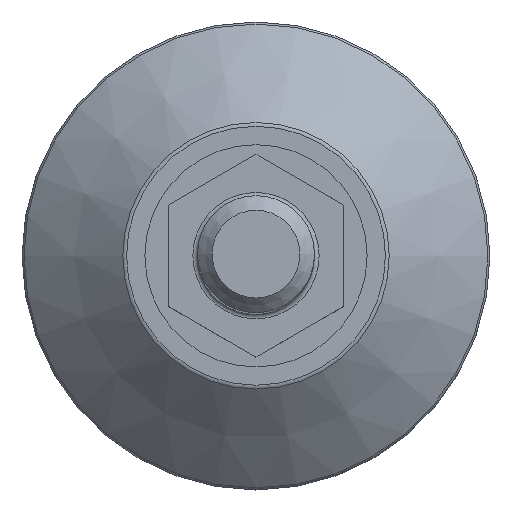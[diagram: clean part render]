
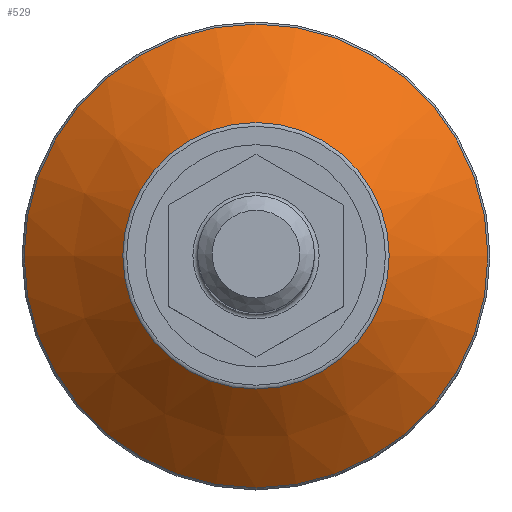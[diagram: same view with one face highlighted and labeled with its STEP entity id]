
A CAD part, top view. The second image highlights one B-rep face of the part: STEP entity #529.
In plain terms, the highlighted conical face has half-angle 49.399 degrees and reference radius 31.216 mm.
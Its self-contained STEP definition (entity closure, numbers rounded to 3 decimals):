
#66=CONICAL_SURFACE('',#583,31.216,49.399);
#86=FACE_BOUND('',#175,.T.);
#125=FACE_OUTER_BOUND('',#174,.T.);
#174=EDGE_LOOP('',(#407));
#175=EDGE_LOOP('',(#408));
#258=CIRCLE('',#581,22.781);
#260=CIRCLE('',#584,39.651);
#297=VERTEX_POINT('',#856);
#299=VERTEX_POINT('',#861);
#348=EDGE_CURVE('',#297,#297,#258,.T.);
#350=EDGE_CURVE('',#299,#299,#260,.T.);
#407=ORIENTED_EDGE('',*,*,#350,.T.);
#408=ORIENTED_EDGE('',*,*,#348,.F.);
#529=ADVANCED_FACE('',(#125,#86),#66,.T.);
#581=AXIS2_PLACEMENT_3D('',#857,#673,#674);
#583=AXIS2_PLACEMENT_3D('',#860,#677,#678);
#584=AXIS2_PLACEMENT_3D('',#862,#679,#680);
#673=DIRECTION('center_axis',(0.,0.,1.));
#674=DIRECTION('ref_axis',(1.,0.,0.));
#677=DIRECTION('center_axis',(0.,0.,-1.));
#678=DIRECTION('ref_axis',(1.,0.,0.));
#679=DIRECTION('center_axis',(0.,0.,1.));
#680=DIRECTION('ref_axis',(1.,0.,0.));
#856=CARTESIAN_POINT('',(19.029,-1.48,12.259));
#857=CARTESIAN_POINT('Origin',(41.809,-1.48,12.259));
#860=CARTESIAN_POINT('Origin',(41.809,-1.48,5.029));
#861=CARTESIAN_POINT('',(2.159,-1.48,-2.201));
#862=CARTESIAN_POINT('Origin',(41.809,-1.48,-2.201));
